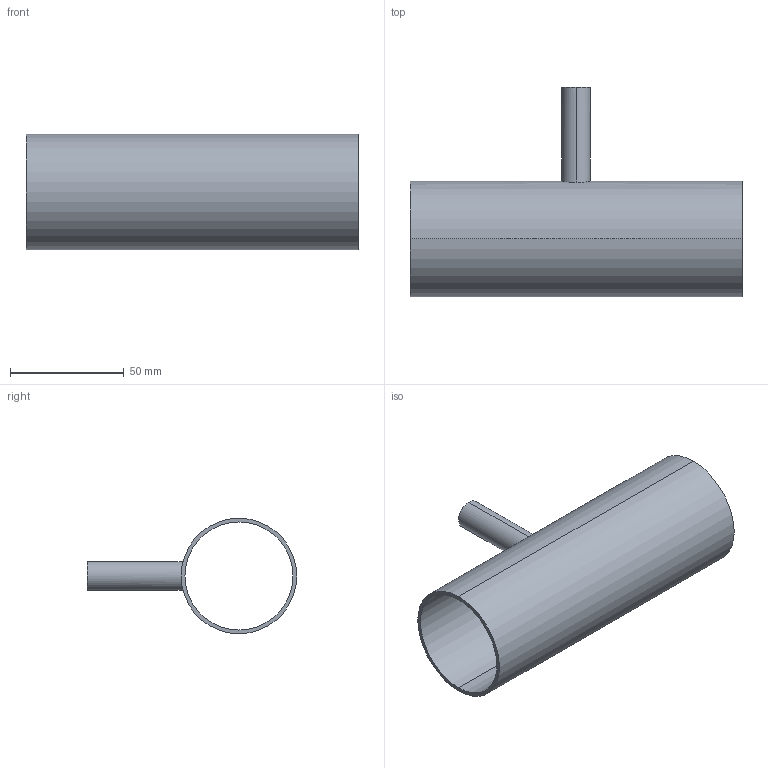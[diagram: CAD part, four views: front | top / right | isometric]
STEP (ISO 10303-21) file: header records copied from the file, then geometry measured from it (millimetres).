
FILE_DESCRIPTION (( 'STEP AP214' ), '1' );
FILE_NAME ('TE7RWWW6L2.0x.5-...STEP', '2016-05-24T04:12:24', ( 'eran' ), ( '' ), 'SwSTEP 2.0', 'SolidWorks 2016', '' );
FILE_SCHEMA (( 'AUTOMOTIVE_DESIGN' ));
Length unit declared in the file: millimetre
Products named in the file (1): TE7RWWW6L2.0x.5-..
Bounding box: 146 x 92.1 x 50.8 mm (x, y, z)
Volume: 39465.5 mm3; surface area: 48396 mm2
Topology: 1 solids, 1 shells, 11 faces, 24 edges, 16 vertices
Faces by surface type: cylinder 8, plane 3
Entity records: 496 total; most frequent: CARTESIAN_POINT 204, DIRECTION 56, ORIENTED_EDGE 48, AXIS2_PLACEMENT_3D 24, EDGE_CURVE 24, EDGE_LOOP 16, VERTEX_POINT 16, CIRCLE 12
